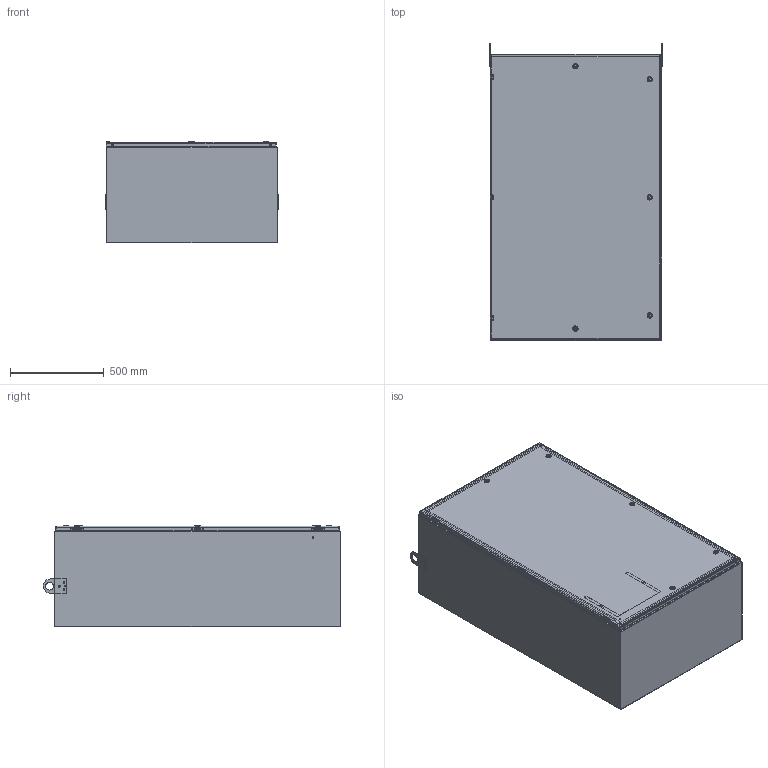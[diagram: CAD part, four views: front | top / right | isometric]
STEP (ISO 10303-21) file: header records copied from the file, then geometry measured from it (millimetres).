
FILE_DESCRIPTION((''),'2;1');
FILE_NAME('MODEL-305_ASM','2025-02-21T08:09:06',('joshi'),('SAGINAW CONTROL & ENGINEERING'),'CREO PARAMETRIC BY PTC INC, 2021284','CREO PARAMETRIC BY PTC INC, 2021284','');
FILE_SCHEMA(('AUTOMOTIVE_DESIGN { 1 0 10303 214 1 1 1 1 }'));
Length unit declared in the file: inch
Products named in the file (35): MODEL-305-BDY; MODEL-305-TP; MODEL-305-BTM; MODEL-305-DR; 100837; 100882; 111267; 100794_SHAFT; 100794_INSERT; 100794_CAM; 100794_NUT; 100794_SCREW; 100794_ASM; MODEL-305-DOOR-GASKET; 128257; 128257_ASM; 126393; 102483; 101226; 101376; 102140; 132757; MODEL-305-DOOR-ASSY_ASM; 101653; 122193; SUBPANEL; 100904; SUBPANEL-SUBASSEMBLY_ASM; 117673; 100059; 117673_ASM; 102172; 100921; 127522_ASM; MODEL-305_ASM
Assembly tree (89 placements, depth 4):
  MODEL-305_ASM
    MODEL-305-BDY
    MODEL-305-TP
    MODEL-305-BTM
    MODEL-305-DOOR-ASSY_ASM
      MODEL-305-DR
      100837  x3
      100882  x2
      111267
      100794_ASM  x5
        100794_SHAFT
        100794_INSERT
        100794_CAM
        100794_NUT
        100794_SCREW
      MODEL-305-DOOR-GASKET
      128257_ASM  x3
        128257
      126393  x3
      102483  x9
      101226  x3
      101376  x3
      102140  x3
      132757  x3
    100837
    101653  x8
    122193
    SUBPANEL-SUBASSEMBLY_ASM
      SUBPANEL
      100904  x8
    127522_ASM
      117673_ASM  x2
        117673
        100059
      102172  x6
      100921  x6
Bounding box: 921.05 x 1582.67 x 539.86 mm (x, y, z)
Volume: 16654701.9 mm3; surface area: 14222357.6 mm2
Topology: 104 solids, 104 shells, 5612 faces, 13903 edges, 8660 vertices
Faces by surface type: plane 2488, cylinder 1639, bspline 640, torus 437, cone 256, sphere 152
Entity records: 94495 total; most frequent: CARTESIAN_POINT 26735, ORIENTED_EDGE 9672, DIRECTION 9423, PRESENTATION_STYLE_ASSIGNMENT 5025, EDGE_CURVE 4836, STYLED_ITEM 4750, CURVE_STYLE 4650, AXIS2_PLACEMENT_3D 3500
